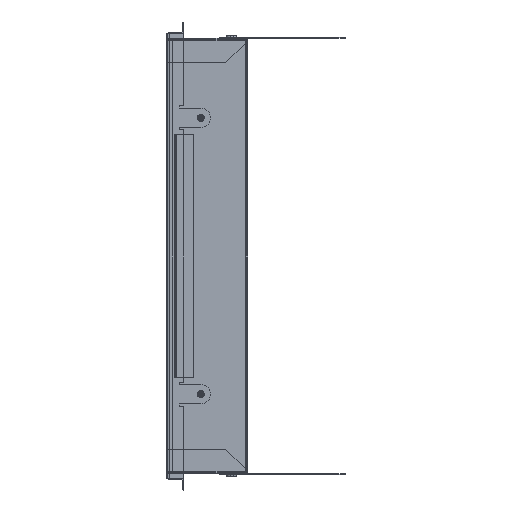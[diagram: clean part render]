
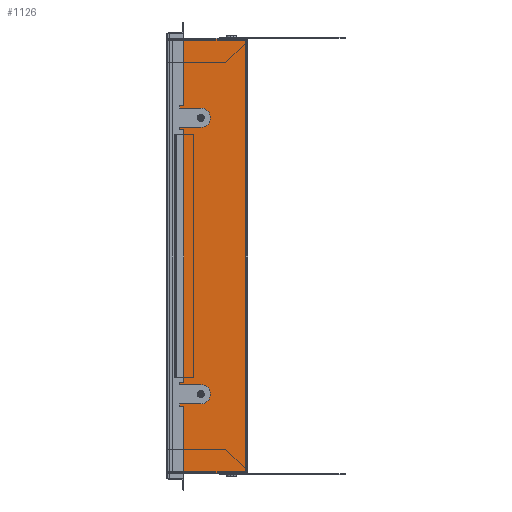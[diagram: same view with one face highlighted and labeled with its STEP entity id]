
A CAD part, left-side view. The second image highlights one B-rep face of the part: STEP entity #1126.
In plain terms, the highlighted planar face has unit normal (-1, 0, 0).
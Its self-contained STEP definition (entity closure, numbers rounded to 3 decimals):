
#1126=ADVANCED_FACE('',(#3545,#3547,#3549),#3551,.F.);
#3545=FACE_BOUND('',#3546,.T.);
#3546=EDGE_LOOP('',(#6257,#6258,#6259,#6260));
#3547=FACE_BOUND('',#3548,.T.);
#3548=EDGE_LOOP('',(#6261));
#3549=FACE_BOUND('',#3550,.T.);
#3550=EDGE_LOOP('',(#6262));
#3551=PLANE('',#3552);
#3552=AXIS2_PLACEMENT_3D('',#3553,#3554,#3555);
#3553=CARTESIAN_POINT('',(-285.9,-284.648,0.));
#3554=DIRECTION('',(1.,0.,0.));
#3555=DIRECTION('',(0.,-1.,0.));
#6257=ORIENTED_EDGE('',*,*,#7361,.T.);
#6258=ORIENTED_EDGE('',*,*,#7397,.T.);
#6259=ORIENTED_EDGE('',*,*,#7398,.F.);
#6260=ORIENTED_EDGE('',*,*,#7399,.T.);
#6261=ORIENTED_EDGE('',*,*,#7400,.T.);
#6262=ORIENTED_EDGE('',*,*,#7401,.T.);
#7361=EDGE_CURVE('',#8433,#8434,#8435,.T.);
#7397=EDGE_CURVE('',#8434,#8489,#8490,.T.);
#7398=EDGE_CURVE('',#8491,#8489,#8492,.T.);
#7399=EDGE_CURVE('',#8491,#8433,#8493,.T.);
#7400=EDGE_CURVE('',#8494,#8494,#8495,.T.);
#7401=EDGE_CURVE('',#8496,#8496,#8497,.T.);
#8433=VERTEX_POINT('',#10857);
#8434=VERTEX_POINT('',#10858);
#8435=LINE('',#10859,#10860);
#8489=VERTEX_POINT('',#11125);
#8490=LINE('',#11126,#11127);
#8491=VERTEX_POINT('',#11129);
#8492=LINE('',#11130,#11131);
#8493=LINE('',#11133,#11134);
#8494=VERTEX_POINT('',#11136);
#8495=CIRCLE('',#11137,1.25);
#8496=VERTEX_POINT('',#11141);
#8497=CIRCLE('',#11142,1.25);
#10857=CARTESIAN_POINT('',(-285.9,1.6,-133.329));
#10858=CARTESIAN_POINT('',(-285.9,1.6,133.329));
#10859=CARTESIAN_POINT('',(-285.9,1.6,-133.329));
#10860=VECTOR('',#10861,1.);
#10861=DIRECTION('',(0.,0.,1.));
#11125=CARTESIAN_POINT('',(-285.9,49.4,133.329));
#11126=CARTESIAN_POINT('',(-285.9,1.6,133.329));
#11127=VECTOR('',#11128,1.);
#11128=DIRECTION('',(0.,1.,0.));
#11129=CARTESIAN_POINT('',(-285.9,49.4,-133.329));
#11130=CARTESIAN_POINT('',(-285.9,49.4,-133.329));
#11131=VECTOR('',#11132,1.);
#11132=DIRECTION('',(0.,0.,1.));
#11133=CARTESIAN_POINT('',(-285.9,49.4,-133.329));
#11134=VECTOR('',#11135,1.);
#11135=DIRECTION('',(0.,-1.,0.));
#11136=CARTESIAN_POINT('',(-285.9,29.,-83.75));
#11137=AXIS2_PLACEMENT_3D('',#11138,#11139,#11140);
#11138=CARTESIAN_POINT('',(-285.9,29.,-85.));
#11139=DIRECTION('',(1.,0.,0.));
#11140=DIRECTION('',(-0.,0.,1.));
#11141=CARTESIAN_POINT('',(-285.9,29.,86.25));
#11142=AXIS2_PLACEMENT_3D('',#11143,#11144,#11145);
#11143=CARTESIAN_POINT('',(-285.9,29.,85.));
#11144=DIRECTION('',(1.,0.,0.));
#11145=DIRECTION('',(-0.,0.,1.));
